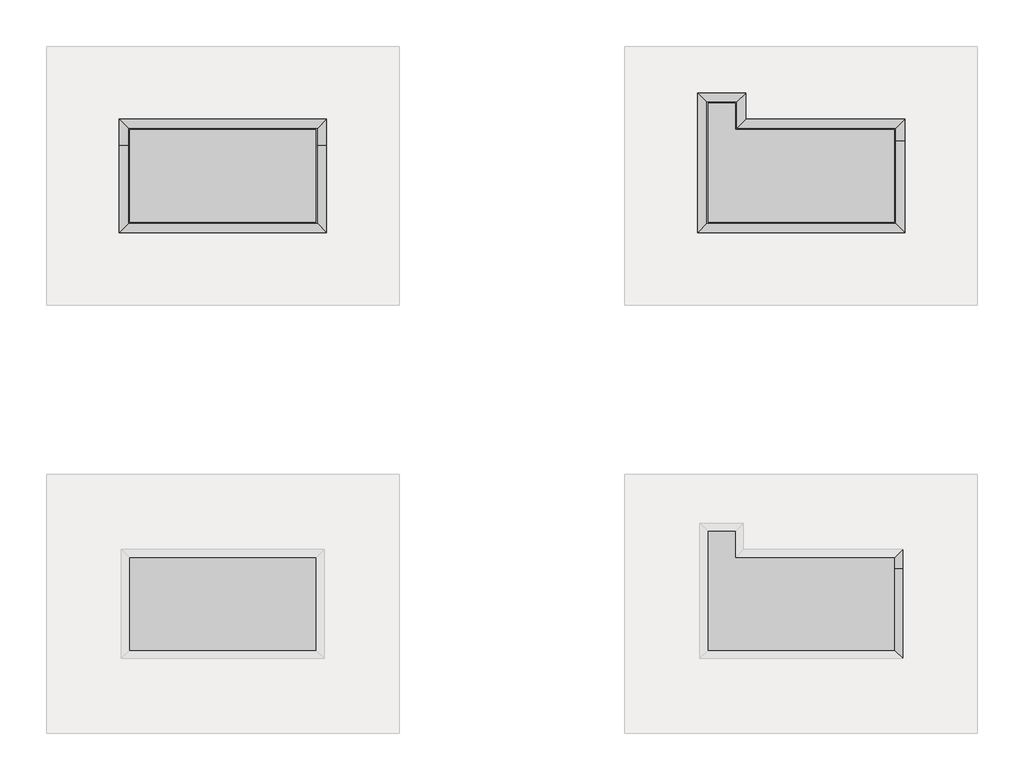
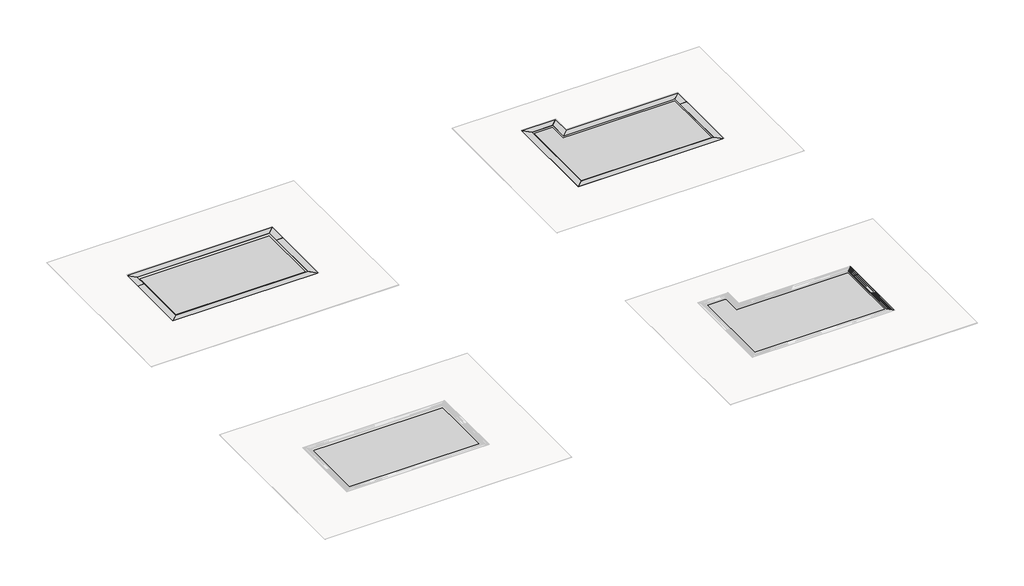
# One storey, part 5 of 5: 22 proxies.
"""IFC4 building model written with IfcOpenShell, lengths in millimetres."""

from ifc_helpers import new_model, si_unit, origin, place, context, project, spatial, faceted_brep, transform, mapped, element, save
from components import agua_piscina_1_agua_piscina_5_0a4dd42f, agua_piscina_4_agua_piscina_6_01312ebb, agua_piscina_5_agua_piscina_5_b9f0a899, agua_piscina_6_agua_piscina_6_d0c34d84

model = new_model("IFC4")

# Units and contexts
model_context = context("Model", 3, world=origin())
ifc_project = project(units=[si_unit("LENGTHUNIT", "METRE", prefix="MILLI")], contexts=[model_context])

# Site, building, storey
site = spatial("IfcSite", under=ifc_project)
building = spatial("IfcBuilding", under=site)
storey = spatial("IfcBuildingStorey", under=building, Name="EXAGRES_MILAN Series_Pool_Examples", Elevation=0.0)

# Proxies
placement = place(None, origin())
element("IfcBuildingElementProxy", 1, Name="Wall Sweeps", at=placement, inside=storey, context=model_context, shape_type="Brep", body=[
    faceted_brep([(-13895.3292468, 9079.1443058, -200.0), (-13695.3292468, 8879.1443058, -200.0), (-13495.3292468, 8679.1443058, -200.0), (-13495.3292468, 8679.1443058, 0.0), (-13895.3292468, 9079.1443058, 0.0), (-5045.3292468, 9079.1443058, -200.0), (-5045.3292468, 9079.1443058, 0.0), (-5445.3292468, 8679.1443058, 0.0), (-5445.3292468, 8679.1443058, -200.0), (-5245.3292468, 8879.1443058, -200.0)], [[[0, 1, 2, 3, 4]], [[5, 6, 7, 8, 9]], [[3, 2, 8, 7]], [[2, 1, 0, 5, 9, 8]], [[4, 3, 7, 6]], [[0, 4, 6, 5]]]),
])
element("IfcBuildingElementProxy", 2, Name="Wall Sweeps", at=placement, inside=storey, context=model_context, shape_type="Brep", body=[
    faceted_brep([(-5045.3292468, 9079.1443058, -200.0), (-5245.3292468, 8879.1443058, -200.0), (-5445.3292468, 8679.1443058, -200.0), (-5445.3292468, 8679.1443058, 0.0), (-5045.3292468, 9079.1443058, 0.0), (-5045.3292468, 7954.1443058, -200.0), (-5045.3292468, 7954.1443058, 0.0), (-5445.3292468, 7954.1443058, 0.0), (-5445.3292468, 7954.1443058, -200.0), (-5245.3292468, 7954.1443058, -200.0)], [[[0, 1, 2, 3, 4]], [[5, 6, 7, 8, 9]], [[3, 2, 8, 7]], [[2, 1, 0, 5, 9, 8]], [[4, 3, 7, 6]], [[0, 4, 6, 5]]]),
])
element("IfcBuildingElementProxy", 3, Name="Wall Sweeps", at=placement, inside=storey, context=model_context, shape_type="Brep", body=[
    faceted_brep([(-5045.3292468, 4229.1443058, -200.0), (-5245.3292468, 4429.1443058, -200.0), (-5445.3292468, 4629.1443058, -200.0), (-5445.3292468, 4629.1443058, 0.0), (-5045.3292468, 4229.1443058, 0.0), (-13895.3292468, 4229.1443058, -200.0), (-13895.3292468, 4229.1443058, 0.0), (-13495.3292468, 4629.1443058, 0.0), (-13495.3292468, 4629.1443058, -200.0), (-13695.3292468, 4429.1443058, -200.0)], [[[0, 1, 2, 3, 4]], [[5, 6, 7, 8, 9]], [[3, 2, 8, 7]], [[2, 1, 0, 5, 9, 8]], [[4, 3, 7, 6]], [[0, 4, 6, 5]]]),
])
element("IfcBuildingElementProxy", 4, Name="Wall Sweeps", at=placement, inside=storey, context=model_context, shape_type="Brep", body=[
    faceted_brep([(-13895.3292468, 4229.1443058, -200.0), (-13695.3292468, 4429.1443058, -200.0), (-13495.3292468, 4629.1443058, -200.0), (-13495.3292468, 4629.1443058, 0.0), (-13895.3292468, 4229.1443058, 0.0), (-13895.3292468, 7954.1443058, -200.0), (-13895.3292468, 7954.1443058, 0.0), (-13495.3292468, 7954.1443058, 0.0), (-13495.3292468, 7954.1443058, -200.0), (-13695.3292468, 7954.1443058, -200.0)], [[[0, 1, 2, 3, 4]], [[5, 6, 7, 8, 9]], [[3, 2, 8, 7]], [[2, 1, 0, 5, 9, 8]], [[4, 3, 7, 6]], [[0, 4, 6, 5]]]),
])
element("IfcBuildingElementProxy", 5, Name="Wall Sweeps", at=placement, inside=storey, context=model_context, shape_type="Brep", body=[
    faceted_brep([(12854.6707532, 9079.1443058, -200.0), (12654.6707532, 8879.1443058, -200.0), (12454.6707532, 8679.1443058, -200.0), (12454.6707532, 8679.1443058, 0.0), (12854.6707532, 9079.1443058, 0.0), (19654.6707532, 9079.1443058, -200.0), (19654.6707532, 9079.1443058, 0.0), (19254.6707532, 8679.1443058, 0.0), (19254.6707532, 8679.1443058, -200.0), (19454.6707532, 8879.1443058, -200.0)], [[[0, 1, 2, 3, 4]], [[5, 6, 7, 8, 9]], [[3, 2, 8, 7]], [[2, 1, 0, 5, 9, 8]], [[4, 3, 7, 6]], [[0, 4, 6, 5]]]),
])
element("IfcBuildingElementProxy", 6, Name="Wall Sweeps", at=placement, inside=storey, context=model_context, shape_type="Brep", body=[
    faceted_brep([(19654.6707532, 9079.1443058, -200.0), (19454.6707532, 8879.1443058, -200.0), (19254.6707532, 8679.1443058, -200.0), (19254.6707532, 8679.1443058, 0.0), (19654.6707532, 9079.1443058, 0.0), (19654.6707532, 8146.6443058, -200.0), (19654.6707532, 8146.6443058, 0.0), (19254.6707532, 8146.6443058, 0.0), (19254.6707532, 8146.6443058, -200.0), (19454.6707532, 8146.6443058, -200.0)], [[[0, 1, 2, 3, 4]], [[5, 6, 7, 8, 9]], [[3, 2, 8, 7]], [[2, 1, 0, 5, 9, 8]], [[4, 3, 7, 6]], [[0, 4, 6, 5]]]),
])
element("IfcBuildingElementProxy", 7, Name="Wall Sweeps", at=placement, inside=storey, context=model_context, shape_type="Brep", body=[
    faceted_brep([(19654.6707532, 4229.1443058, -200.0), (19254.6707532, 4629.1443058, -200.0), (19254.6707532, 4629.1443058, 0.0), (19654.6707532, 4229.1443058, 0.0), (10804.6707532, 4229.1443058, -200.0), (10804.6707532, 4229.1443058, 0.0), (11204.6707532, 4629.1443058, 0.0), (11204.6707532, 4629.1443058, -200.0), (11004.6707532, 4429.1443058, -200.0)], [[[0, 1, 2, 3]], [[4, 5, 6, 7, 8]], [[2, 1, 7, 6]], [[1, 0, 4, 8, 7]], [[3, 2, 6, 5]], [[0, 3, 5, 4]]]),
])
element("IfcBuildingElementProxy", 8, Name="Wall Sweeps", at=placement, inside=storey, context=model_context, shape_type="Brep", body=[
    faceted_brep([(10804.6707532, 4229.1443058, -200.0), (11004.6707532, 4429.1443058, -200.0), (11204.6707532, 4629.1443058, -200.0), (11204.6707532, 4629.1443058, 0.0), (10804.6707532, 4229.1443058, 0.0), (10804.6707532, 10199.1443058, -200.0), (10804.6707532, 10199.1443058, 0.0), (11204.6707532, 9799.1443058, 0.0), (11204.6707532, 9799.1443058, -200.0), (11004.6707532, 9999.1443058, -200.0)], [[[0, 1, 2, 3, 4]], [[5, 6, 7, 8, 9]], [[3, 2, 8, 7]], [[2, 1, 0, 5, 9, 8]], [[4, 3, 7, 6]], [[0, 4, 6, 5]]]),
])
element("IfcBuildingElementProxy", 9, Name="Wall Sweeps", at=placement, inside=storey, context=model_context, shape_type="Brep", body=[
    faceted_brep([(12854.6707532, 9079.1443058, -200.0), (12854.6707532, 9079.1443058, 0.0), (12454.6707532, 8679.1443058, 0.0), (12454.6707532, 8679.1443058, -200.0), (12654.6707532, 8879.1443058, -200.0), (12854.6707532, 10199.1443058, -200.0), (12654.6707532, 9999.1443058, -200.0), (12454.6707532, 9799.1443058, -200.0), (12454.6707532, 9799.1443058, 0.0), (12854.6707532, 10199.1443058, 0.0)], [[[0, 1, 2, 3, 4]], [[5, 6, 7, 8, 9]], [[0, 4, 3, 7, 6, 5]], [[3, 2, 8, 7]], [[1, 0, 5, 9]], [[2, 1, 9, 8]]]),
])
element("IfcBuildingElementProxy", 10, Name="Wall Sweeps", at=placement, inside=storey, context=model_context, shape_type="Brep", body=[
    faceted_brep([(10804.6707532, 10199.1443058, -200.0), (11004.6707532, 9999.1443058, -200.0), (11204.6707532, 9799.1443058, -200.0), (11204.6707532, 9799.1443058, 0.0), (10804.6707532, 10199.1443058, 0.0), (12854.6707532, 10199.1443058, -200.0), (12854.6707532, 10199.1443058, 0.0), (12454.6707532, 9799.1443058, 0.0), (12454.6707532, 9799.1443058, -200.0), (12654.6707532, 9999.1443058, -200.0)], [[[0, 1, 2, 3, 4]], [[5, 6, 7, 8, 9]], [[3, 2, 8, 7]], [[2, 1, 0, 5, 9, 8]], [[4, 3, 7, 6]], [[0, 4, 6, 5]]]),
])
element("IfcBuildingElementProxy", 11, Name="Wall Sweeps", at=placement, inside=storey, context=model_context, shape_type="Brep", body=[
    faceted_brep([(-13895.3292468, 7954.1443058, -200.0), (-13695.3292468, 7954.1443058, -200.0), (-13495.3292468, 7954.1443058, -200.0), (-13495.3292468, 7954.1443058, 0.0), (-13895.3292468, 7954.1443058, 0.0), (-13895.3292468, 9079.1443058, -200.0), (-13895.3292468, 9079.1443058, 0.0), (-13495.3292468, 8679.1443058, 0.0), (-13495.3292468, 8679.1443058, -200.0), (-13695.3292468, 8879.1443058, -200.0)], [[[0, 1, 2, 3, 4]], [[5, 6, 7, 8, 9]], [[2, 1, 0, 5, 9, 8]], [[3, 2, 8, 7]], [[4, 3, 7, 6]], [[0, 4, 6, 5]]]),
])
element("IfcBuildingElementProxy", 12, Name="Wall Sweeps", at=placement, inside=storey, context=model_context, shape_type="Brep", body=[
    faceted_brep([(-5045.3292468, 7954.1443058, -200.0), (-5245.3292468, 7954.1443058, -200.0), (-5445.3292468, 7954.1443058, -200.0), (-5445.3292468, 7954.1443058, 0.0), (-5045.3292468, 7954.1443058, 0.0), (-5045.3292468, 4229.1443058, -200.0), (-5045.3292468, 4229.1443058, 0.0), (-5445.3292468, 4629.1443058, 0.0), (-5445.3292468, 4629.1443058, -200.0), (-5245.3292468, 4429.1443058, -200.0)], [[[0, 1, 2, 3, 4]], [[5, 6, 7, 8, 9]], [[2, 1, 0, 5, 9, 8]], [[3, 2, 8, 7]], [[4, 3, 7, 6]], [[0, 4, 6, 5]]]),
])
element("IfcBuildingElementProxy", 13, Name="Wall Sweeps", at=placement, inside=storey, context=model_context, shape_type="Brep", body=[
    faceted_brep([(19654.6707532, 8146.6443058, -200.0), (19454.6707532, 8146.6443058, -200.0), (19254.6707532, 8146.6443058, -200.0), (19254.6707532, 8146.6443058, 0.0), (19654.6707532, 8146.6443058, 0.0), (19654.6707532, 4229.1443058, -200.0), (19654.6707532, 4229.1443058, 0.0), (19254.6707532, 4629.1443058, 0.0), (19254.6707532, 4629.1443058, -200.0), (19254.6707532, 4654.1443058, -200.0), (19254.6707532, 4654.1443058, 0.0)], [[[0, 1, 2, 3, 4]], [[5, 6, 7, 8]], [[2, 1, 0, 5, 8, 9]], [[3, 2, 9, 8, 7, 10]], [[4, 3, 10, 7, 6]], [[0, 4, 6, 5]]]),
])
element("IfcBuildingElementProxy", 14, Name="Wall Sweeps", at=placement, inside=storey, context=model_context, shape_type="Brep", body=[
    faceted_brep([(12749.6707532, -9319.7035945, -181.26), (12654.6707532, -9414.7035945, -181.26), (12444.6707532, -9624.7035945, -181.26), (12444.6707532, -9624.7035945, 0.0), (12444.6707532, -9624.7035945, 18.74), (12749.6707532, -9319.7035945, 18.74), (19549.6707532, -9319.7035945, -181.26), (19549.6707532, -9319.7035945, 18.74), (19244.6707532, -9624.7035945, 18.74), (19244.6707532, -9624.7035945, 0.0), (19244.6707532, -9624.7035945, -181.26), (19454.6707532, -9414.7035945, -181.26)], [[[0, 1, 2, 3, 4, 5]], [[6, 7, 8, 9, 10, 11]], [[4, 3, 2, 10, 9, 8]], [[2, 1, 0, 6, 11, 10]], [[5, 4, 8, 7]], [[0, 5, 7, 6]]]),
])
element("IfcBuildingElementProxy", 15, Name="Wall Sweeps", at=placement, inside=storey, context=model_context, shape_type="Brep", body=[
    faceted_brep([(19242.6707532, -9626.7035945, 0.0), (19229.6707532, -9639.7035945, 0.0), (19229.6707532, -9639.7035945, 33.0), (19559.6707532, -9309.7035945, 33.0), (19559.6707532, -9309.7035945, 21.0), (19553.6707532, -9315.7035945, 21.0), (19553.6707532, -9315.7035945, 22.0), (19549.6707532, -9319.7035945, 22.0), (19549.6707532, -9319.7035945, 21.0), (19543.6707532, -9325.7035945, 21.0), (19543.6707532, -9325.7035945, 22.0), (19539.6707532, -9329.7035945, 22.0), (19539.6707532, -9329.7035945, 21.0), (19533.6707532, -9335.7035945, 21.0), (19533.6707532, -9335.7035945, 22.0), (19529.6707532, -9339.7035945, 22.0), (19529.6707532, -9339.7035945, 21.0), (19523.6707532, -9345.7035945, 21.0), (19523.6707532, -9345.7035945, 22.0), (19519.6707532, -9349.7035945, 22.0), (19519.6707532, -9349.7035945, 21.0), (19513.6707532, -9355.7035945, 21.0), (19513.6707532, -9355.7035945, 22.0), (19509.6707532, -9359.7035945, 22.0), (19509.6707532, -9359.7035945, 21.0), (19503.6707532, -9365.7035945, 21.0), (19503.6707532, -9365.7035945, 22.0), (19499.6707532, -9369.7035945, 22.0), (19499.6707532, -9369.7035945, 21.0), (19493.6707532, -9375.7035945, 21.0), (19493.6707532, -9375.7035945, 22.0), (19489.6707532, -9379.7035945, 22.0), (19489.6707532, -9379.7035945, 21.0), (19483.6707532, -9385.7035945, 21.0), (19483.6707532, -9385.7035945, 22.0), (19479.6707532, -9389.7035945, 22.0), (19479.6707532, -9389.7035945, 21.0), (19473.6707532, -9395.7035945, 21.0), (19473.6707532, -9395.7035945, 22.0), (19469.6707532, -9399.7035945, 22.0), (19469.6707532, -9399.7035945, 21.0), (19463.6707532, -9405.7035945, 21.0), (19463.6707532, -9405.7035945, 22.0), (19459.6707532, -9409.7035945, 22.0), (19459.6707532, -9409.7035945, 21.0), (19453.6707532, -9415.7035945, 21.0), (19453.6707532, -9415.7035945, 22.0), (19449.6707532, -9419.7035945, 22.0), (19449.6707532, -9419.7035945, 21.0), (19443.6707532, -9425.7035945, 21.0), (19443.6707532, -9425.7035945, 22.0), (19439.6707532, -9429.7035945, 22.0), (19439.6707532, -9429.7035945, 21.0), (19433.6707532, -9435.7035945, 21.0), (19433.6707532, -9435.7035945, 22.0), (19429.6707532, -9439.7035945, 22.0), (19429.6707532, -9439.7035945, 21.0), (19423.6707532, -9445.7035945, 21.0), (19423.6707532, -9445.7035945, 22.0), (19419.6707532, -9449.7035945, 22.0), (19419.6707532, -9449.7035945, 21.0), (19413.6707532, -9455.7035945, 21.0), (19413.6707532, -9455.7035945, 22.0), (19409.6707532, -9459.7035945, 22.0), (19409.6707532, -9459.7035945, 21.0), (19403.6707532, -9465.7035945, 21.0), (19403.6707532, -9465.7035945, 22.0), (19399.6707532, -9469.7035945, 22.0), (19399.6707532, -9469.7035945, 21.0), (19393.6707532, -9475.7035945, 21.0), (19393.6707532, -9475.7035945, 22.0), (19389.6707532, -9479.7035945, 22.0), (19389.6707532, -9479.7035945, 21.0), (19383.6707532, -9485.7035945, 21.0), (19383.6707532, -9485.7035945, 22.0), (19379.6707532, -9489.7035945, 22.0), (19379.6707532, -9489.7035945, 21.0), (19373.6707532, -9495.7035945, 21.0), (19373.6707532, -9495.7035945, 22.0), (19369.6707532, -9499.7035945, 22.0), (19369.6707532, -9499.7035945, 21.0), (19363.6707532, -9505.7035945, 21.0), (19363.6707532, -9505.7035945, 22.0), (19359.6707532, -9509.7035945, 22.0), (19359.6707532, -9509.7035945, 21.0), (19353.6707532, -9515.7035945, 21.0), (19353.6707532, -9515.7035945, 22.0), (19349.6707532, -9519.7035945, 22.0), (19349.6707532, -9519.7035945, 21.0), (19343.6707532, -9525.7035945, 21.0), (19343.6707532, -9525.7035945, 22.0), (19339.6707532, -9529.7035945, 22.0), (19339.6707532, -9529.7035945, 21.0), (19333.6707532, -9535.7035945, 21.0), (19333.6707532, -9535.7035945, 22.0), (19329.6707532, -9539.7035945, 22.0), (19329.6707532, -9539.7035945, 21.0), (19323.6707532, -9545.7035945, 21.0), (19323.6707532, -9545.7035945, 22.0), (19319.6707532, -9549.7035945, 22.0), (19319.6707532, -9549.7035945, 21.0), (19313.6707532, -9555.7035945, 21.0), (19313.6707532, -9555.7035945, 22.0), (19309.6707532, -9559.7035945, 22.0), (19309.6707532, -9559.7035945, 21.0), (19303.6707532, -9565.7035945, 21.0), (19303.6707532, -9565.7035945, 22.0), (19299.6707532, -9569.7035945, 22.0), (19299.6707532, -9569.7035945, 21.0), (19293.6707532, -9575.7035945, 21.0), (19293.6707532, -9575.7035945, 22.0), (19289.6707532, -9579.7035945, 22.0), (19289.6707532, -9579.7035945, 21.0), (19283.6707532, -9585.7035945, 21.0), (19283.6707532, -9585.7035945, 22.0), (19279.6707532, -9589.7035945, 22.0), (19279.6707532, -9589.7035945, 21.0), (19273.6707532, -9595.7035945, 21.0), (19273.6707532, -9595.7035945, 22.0), (19269.6707532, -9599.7035945, 22.0), (19269.6707532, -9599.7035945, 21.0), (19263.6707532, -9605.7035945, 21.0), (19263.6707532, -9605.7035945, 22.0), (19259.6707532, -9609.7035945, 22.0), (19259.6707532, -9609.7035945, 21.0), (19253.6707532, -9615.7035945, 21.0), (19253.6707532, -9615.7035945, 22.0), (19249.6707532, -9619.7035945, 22.0), (19249.6707532, -9619.7035945, 21.0), (19242.6707532, -9626.7035945, 21.0), (19242.6707532, -9626.7035945, 14.0), (19241.6707532, -9627.7035945, 14.0), (19241.6707532, -9627.7035945, 8.0), (19242.6707532, -9626.7035945, 8.0), (19242.6707532, -10147.2035945, 0.0), (19242.6707532, -10147.2035945, 8.0), (19241.6707532, -10147.2035945, 8.0), (19241.6707532, -10147.2035945, 14.0), (19242.6707532, -10147.2035945, 14.0), (19242.6707532, -10147.2035945, 21.0), (19249.6707532, -10147.2035945, 21.0), (19249.6707532, -10147.2035945, 22.0), (19253.6707532, -10147.2035945, 22.0), (19253.6707532, -10147.2035945, 21.0), (19259.6707532, -10147.2035945, 21.0), (19259.6707532, -10147.2035945, 22.0), (19263.6707532, -10147.2035945, 22.0), (19263.6707532, -10147.2035945, 21.0), (19269.6707532, -10147.2035945, 21.0), (19269.6707532, -10147.2035945, 22.0), (19273.6707532, -10147.2035945, 22.0), (19273.6707532, -10147.2035945, 21.0), (19279.6707532, -10147.2035945, 21.0), (19279.6707532, -10147.2035945, 22.0), (19283.6707532, -10147.2035945, 22.0), (19283.6707532, -10147.2035945, 21.0), (19289.6707532, -10147.2035945, 21.0), (19289.6707532, -10147.2035945, 22.0), (19293.6707532, -10147.2035945, 22.0), (19293.6707532, -10147.2035945, 21.0), (19299.6707532, -10147.2035945, 21.0), (19299.6707532, -10147.2035945, 22.0), (19303.6707532, -10147.2035945, 22.0), (19303.6707532, -10147.2035945, 21.0), (19309.6707532, -10147.2035945, 21.0), (19309.6707532, -10147.2035945, 22.0), (19313.6707532, -10147.2035945, 22.0), (19313.6707532, -10147.2035945, 21.0), (19319.6707532, -10147.2035945, 21.0), (19319.6707532, -10147.2035945, 22.0), (19323.6707532, -10147.2035945, 22.0), (19323.6707532, -10147.2035945, 21.0), (19329.6707532, -10147.2035945, 21.0), (19329.6707532, -10147.2035945, 22.0), (19333.6707532, -10147.2035945, 22.0), (19333.6707532, -10147.2035945, 21.0), (19339.6707532, -10147.2035945, 21.0), (19339.6707532, -10147.2035945, 22.0), (19343.6707532, -10147.2035945, 22.0), (19343.6707532, -10147.2035945, 21.0), (19349.6707532, -10147.2035945, 21.0), (19349.6707532, -10147.2035945, 22.0), (19353.6707532, -10147.2035945, 22.0), (19353.6707532, -10147.2035945, 21.0), (19359.6707532, -10147.2035945, 21.0), (19359.6707532, -10147.2035945, 22.0), (19363.6707532, -10147.2035945, 22.0), (19363.6707532, -10147.2035945, 21.0), (19369.6707532, -10147.2035945, 21.0), (19369.6707532, -10147.2035945, 22.0), (19373.6707532, -10147.2035945, 22.0), (19373.6707532, -10147.2035945, 21.0), (19379.6707532, -10147.2035945, 21.0), (19379.6707532, -10147.2035945, 22.0), (19383.6707532, -10147.2035945, 22.0), (19383.6707532, -10147.2035945, 21.0), (19389.6707532, -10147.2035945, 21.0), (19389.6707532, -10147.2035945, 22.0), (19393.6707532, -10147.2035945, 22.0), (19393.6707532, -10147.2035945, 21.0), (19399.6707532, -10147.2035945, 21.0), (19399.6707532, -10147.2035945, 22.0), (19403.6707532, -10147.2035945, 22.0), (19403.6707532, -10147.2035945, 21.0), (19409.6707532, -10147.2035945, 21.0), (19409.6707532, -10147.2035945, 22.0), (19413.6707532, -10147.2035945, 22.0), (19413.6707532, -10147.2035945, 21.0), (19419.6707532, -10147.2035945, 21.0), (19419.6707532, -10147.2035945, 22.0), (19423.6707532, -10147.2035945, 22.0), (19423.6707532, -10147.2035945, 21.0), (19429.6707532, -10147.2035945, 21.0), (19429.6707532, -10147.2035945, 22.0), (19433.6707532, -10147.2035945, 22.0), (19433.6707532, -10147.2035945, 21.0), (19439.6707532, -10147.2035945, 21.0), (19439.6707532, -10147.2035945, 22.0), (19443.6707532, -10147.2035945, 22.0), (19443.6707532, -10147.2035945, 21.0), (19449.6707532, -10147.2035945, 21.0), (19449.6707532, -10147.2035945, 22.0), (19453.6707532, -10147.2035945, 22.0), (19453.6707532, -10147.2035945, 21.0), (19459.6707532, -10147.2035945, 21.0), (19459.6707532, -10147.2035945, 22.0), (19463.6707532, -10147.2035945, 22.0), (19463.6707532, -10147.2035945, 21.0), (19469.6707532, -10147.2035945, 21.0), (19469.6707532, -10147.2035945, 22.0), (19473.6707532, -10147.2035945, 22.0), (19473.6707532, -10147.2035945, 21.0), (19479.6707532, -10147.2035945, 21.0), (19479.6707532, -10147.2035945, 22.0), (19483.6707532, -10147.2035945, 22.0), (19483.6707532, -10147.2035945, 21.0), (19489.6707532, -10147.2035945, 21.0), (19489.6707532, -10147.2035945, 22.0), (19493.6707532, -10147.2035945, 22.0), (19493.6707532, -10147.2035945, 21.0), (19499.6707532, -10147.2035945, 21.0), (19499.6707532, -10147.2035945, 22.0), (19503.6707532, -10147.2035945, 22.0), (19503.6707532, -10147.2035945, 21.0), (19509.6707532, -10147.2035945, 21.0), (19509.6707532, -10147.2035945, 22.0), (19513.6707532, -10147.2035945, 22.0), (19513.6707532, -10147.2035945, 21.0), (19519.6707532, -10147.2035945, 21.0), (19519.6707532, -10147.2035945, 22.0), (19523.6707532, -10147.2035945, 22.0), (19523.6707532, -10147.2035945, 21.0), (19529.6707532, -10147.2035945, 21.0), (19529.6707532, -10147.2035945, 22.0), (19533.6707532, -10147.2035945, 22.0), (19533.6707532, -10147.2035945, 21.0), (19539.6707532, -10147.2035945, 21.0), (19539.6707532, -10147.2035945, 22.0), (19543.6707532, -10147.2035945, 22.0), (19543.6707532, -10147.2035945, 21.0), (19549.6707532, -10147.2035945, 21.0), (19549.6707532, -10147.2035945, 22.0), (19553.6707532, -10147.2035945, 22.0), (19553.6707532, -10147.2035945, 21.0), (19559.6707532, -10147.2035945, 21.0), (19559.6707532, -10147.2035945, 33.0), (19229.6707532, -10147.2035945, 33.0), (19229.6707532, -10147.2035945, 0.0)], [[[0, 1, 2, 3, 4, 5, 6, 7, 8, 9, 10, 11, 12, 13, 14, 15, 16, 17, 18, 19, 20, 21, 22, 23, 24, 25, 26, 27, 28, 29, 30, 31, 32, 33, 34, 35, 36, 37, 38, 39, 40, 41, 42, 43, 44, 45, 46, 47, 48, 49, 50, 51, 52, 53, 54, 55, 56, 57, 58, 59, 60, 61, 62, 63, 64, 65, 66, 67, 68, 69, 70, 71, 72, 73, 74, 75, 76, 77, 78, 79, 80, 81, 82, 83, 84, 85, 86, 87, 88, 89, 90, 91, 92, 93, 94, 95, 96, 97, 98, 99, 100, 101, 102, 103, 104, 105, 106, 107, 108, 109, 110, 111, 112, 113, 114, 115, 116, 117, 118, 119, 120, 121, 122, 123, 124, 125, 126, 127, 128, 129, 130, 131, 132, 133]], [[134, 135, 136, 137, 138, 139, 140, 141, 142, 143, 144, 145, 146, 147, 148, 149, 150, 151, 152, 153, 154, 155, 156, 157, 158, 159, 160, 161, 162, 163, 164, 165, 166, 167, 168, 169, 170, 171, 172, 173, 174, 175, 176, 177, 178, 179, 180, 181, 182, 183, 184, 185, 186, 187, 188, 189, 190, 191, 192, 193, 194, 195, 196, 197, 198, 199, 200, 201, 202, 203, 204, 205, 206, 207, 208, 209, 210, 211, 212, 213, 214, 215, 216, 217, 218, 219, 220, 221, 222, 223, 224, 225, 226, 227, 228, 229, 230, 231, 232, 233, 234, 235, 236, 237, 238, 239, 240, 241, 242, 243, 244, 245, 246, 247, 248, 249, 250, 251, 252, 253, 254, 255, 256, 257, 258, 259, 260, 261, 262, 263, 264, 265, 266, 267]], [[1, 0, 134, 267]], [[2, 1, 267, 266]], [[3, 2, 266, 265]], [[4, 3, 265, 264]], [[5, 4, 264, 263]], [[6, 5, 263, 262]], [[7, 6, 262, 261]], [[8, 7, 261, 260]], [[9, 8, 260, 259]], [[10, 9, 259, 258]], [[11, 10, 258, 257]], [[12, 11, 257, 256]], [[13, 12, 256, 255]], [[14, 13, 255, 254]], [[15, 14, 254, 253]], [[16, 15, 253, 252]], [[17, 16, 252, 251]], [[18, 17, 251, 250]], [[19, 18, 250, 249]], [[20, 19, 249, 248]], [[21, 20, 248, 247]], [[22, 21, 247, 246]], [[23, 22, 246, 245]], [[24, 23, 245, 244]], [[25, 24, 244, 243]], [[26, 25, 243, 242]], [[27, 26, 242, 241]], [[28, 27, 241, 240]], [[29, 28, 240, 239]], [[30, 29, 239, 238]], [[31, 30, 238, 237]], [[32, 31, 237, 236]], [[33, 32, 236, 235]], [[34, 33, 235, 234]], [[35, 34, 234, 233]], [[36, 35, 233, 232]], [[37, 36, 232, 231]], [[38, 37, 231, 230]], [[39, 38, 230, 229]], [[40, 39, 229, 228]], [[41, 40, 228, 227]], [[42, 41, 227, 226]], [[43, 42, 226, 225]], [[44, 43, 225, 224]], [[45, 44, 224, 223]], [[46, 45, 223, 222]], [[47, 46, 222, 221]], [[48, 47, 221, 220]], [[49, 48, 220, 219]], [[50, 49, 219, 218]], [[51, 50, 218, 217]], [[52, 51, 217, 216]], [[53, 52, 216, 215]], [[54, 53, 215, 214]], [[55, 54, 214, 213]], [[56, 55, 213, 212]], [[57, 56, 212, 211]], [[58, 57, 211, 210]], [[59, 58, 210, 209]], [[60, 59, 209, 208]], [[61, 60, 208, 207]], [[62, 61, 207, 206]], [[63, 62, 206, 205]], [[64, 63, 205, 204]], [[65, 64, 204, 203]], [[66, 65, 203, 202]], [[67, 66, 202, 201]], [[68, 67, 201, 200]], [[69, 68, 200, 199]], [[70, 69, 199, 198]], [[71, 70, 198, 197]], [[72, 71, 197, 196]], [[73, 72, 196, 195]], [[74, 73, 195, 194]], [[75, 74, 194, 193]], [[76, 75, 193, 192]], [[77, 76, 192, 191]], [[78, 77, 191, 190]], [[79, 78, 190, 189]], [[80, 79, 189, 188]], [[81, 80, 188, 187]], [[82, 81, 187, 186]], [[83, 82, 186, 185]], [[84, 83, 185, 184]], [[85, 84, 184, 183]], [[86, 85, 183, 182]], [[87, 86, 182, 181]], [[88, 87, 181, 180]], [[89, 88, 180, 179]], [[90, 89, 179, 178]], [[91, 90, 178, 177]], [[92, 91, 177, 176]], [[93, 92, 176, 175]], [[94, 93, 175, 174]], [[95, 94, 174, 173]], [[96, 95, 173, 172]], [[97, 96, 172, 171]], [[98, 97, 171, 170]], [[99, 98, 170, 169]], [[100, 99, 169, 168]], [[101, 100, 168, 167]], [[102, 101, 167, 166]], [[103, 102, 166, 165]], [[104, 103, 165, 164]], [[105, 104, 164, 163]], [[106, 105, 163, 162]], [[107, 106, 162, 161]], [[108, 107, 161, 160]], [[109, 108, 160, 159]], [[110, 109, 159, 158]], [[111, 110, 158, 157]], [[112, 111, 157, 156]], [[113, 112, 156, 155]], [[114, 113, 155, 154]], [[115, 114, 154, 153]], [[116, 115, 153, 152]], [[117, 116, 152, 151]], [[118, 117, 151, 150]], [[119, 118, 150, 149]], [[120, 119, 149, 148]], [[121, 120, 148, 147]], [[122, 121, 147, 146]], [[123, 122, 146, 145]], [[124, 123, 145, 144]], [[125, 124, 144, 143]], [[126, 125, 143, 142]], [[127, 126, 142, 141]], [[128, 127, 141, 140]], [[129, 128, 140, 139]], [[130, 129, 139, 138]], [[131, 130, 138, 137]], [[132, 131, 137, 136]], [[133, 132, 136, 135]], [[0, 133, 135, 134]]]),
])
element("IfcBuildingElementProxy", 16, Name="Wall Sweeps", at=placement, inside=storey, context=model_context, shape_type="Brep", body=[
    faceted_brep([(19549.6707532, -9319.7035945, -181.26), (19454.6707532, -9414.7035945, -181.26), (19244.6707532, -9624.7035945, -181.26), (19244.6707532, -9624.7035945, 0.0), (19244.6707532, -9624.7035945, 18.74), (19549.6707532, -9319.7035945, 18.74), (19549.6707532, -10147.2035945, -181.26), (19549.6707532, -10147.2035945, 18.74), (19244.6707532, -10147.2035945, 18.74), (19244.6707532, -10147.2035945, 0.0), (19244.6707532, -10147.2035945, -181.26), (19454.6707532, -10147.2035945, -181.26)], [[[0, 1, 2, 3, 4, 5]], [[6, 7, 8, 9, 10, 11]], [[4, 3, 2, 10, 9, 8]], [[2, 1, 0, 6, 11, 10]], [[5, 4, 8, 7]], [[0, 5, 7, 6]]]),
])
element("IfcBuildingElementProxy", 17, Name="Wall Sweeps", at=placement, inside=storey, context=model_context, shape_type="Brep", body=[
    faceted_brep([(19242.6707532, -10147.2035945, 0.0), (19229.6707532, -10147.2035945, 0.0), (19229.6707532, -10147.2035945, 33.0), (19559.6707532, -10147.2035945, 33.0), (19559.6707532, -10147.2035945, 21.0), (19553.6707532, -10147.2035945, 21.0), (19553.6707532, -10147.2035945, 22.0), (19549.6707532, -10147.2035945, 22.0), (19549.6707532, -10147.2035945, 21.0), (19543.6707532, -10147.2035945, 21.0), (19543.6707532, -10147.2035945, 22.0), (19539.6707532, -10147.2035945, 22.0), (19539.6707532, -10147.2035945, 21.0), (19533.6707532, -10147.2035945, 21.0), (19533.6707532, -10147.2035945, 22.0), (19529.6707532, -10147.2035945, 22.0), (19529.6707532, -10147.2035945, 21.0), (19523.6707532, -10147.2035945, 21.0), (19523.6707532, -10147.2035945, 22.0), (19519.6707532, -10147.2035945, 22.0), (19519.6707532, -10147.2035945, 21.0), (19513.6707532, -10147.2035945, 21.0), (19513.6707532, -10147.2035945, 22.0), (19509.6707532, -10147.2035945, 22.0), (19509.6707532, -10147.2035945, 21.0), (19503.6707532, -10147.2035945, 21.0), (19503.6707532, -10147.2035945, 22.0), (19499.6707532, -10147.2035945, 22.0), (19499.6707532, -10147.2035945, 21.0), (19493.6707532, -10147.2035945, 21.0), (19493.6707532, -10147.2035945, 22.0), (19489.6707532, -10147.2035945, 22.0), (19489.6707532, -10147.2035945, 21.0), (19483.6707532, -10147.2035945, 21.0), (19483.6707532, -10147.2035945, 22.0), (19479.6707532, -10147.2035945, 22.0), (19479.6707532, -10147.2035945, 21.0), (19473.6707532, -10147.2035945, 21.0), (19473.6707532, -10147.2035945, 22.0), (19469.6707532, -10147.2035945, 22.0), (19469.6707532, -10147.2035945, 21.0), (19463.6707532, -10147.2035945, 21.0), (19463.6707532, -10147.2035945, 22.0), (19459.6707532, -10147.2035945, 22.0), (19459.6707532, -10147.2035945, 21.0), (19453.6707532, -10147.2035945, 21.0), (19453.6707532, -10147.2035945, 22.0), (19449.6707532, -10147.2035945, 22.0), (19449.6707532, -10147.2035945, 21.0), (19443.6707532, -10147.2035945, 21.0), (19443.6707532, -10147.2035945, 22.0), (19439.6707532, -10147.2035945, 22.0), (19439.6707532, -10147.2035945, 21.0), (19433.6707532, -10147.2035945, 21.0), (19433.6707532, -10147.2035945, 22.0), (19429.6707532, -10147.2035945, 22.0), (19429.6707532, -10147.2035945, 21.0), (19423.6707532, -10147.2035945, 21.0), (19423.6707532, -10147.2035945, 22.0), (19419.6707532, -10147.2035945, 22.0), (19419.6707532, -10147.2035945, 21.0), (19413.6707532, -10147.2035945, 21.0), (19413.6707532, -10147.2035945, 22.0), (19409.6707532, -10147.2035945, 22.0), (19409.6707532, -10147.2035945, 21.0), (19403.6707532, -10147.2035945, 21.0), (19403.6707532, -10147.2035945, 22.0), (19399.6707532, -10147.2035945, 22.0), (19399.6707532, -10147.2035945, 21.0), (19393.6707532, -10147.2035945, 21.0), (19393.6707532, -10147.2035945, 22.0), (19389.6707532, -10147.2035945, 22.0), (19389.6707532, -10147.2035945, 21.0), (19383.6707532, -10147.2035945, 21.0), (19383.6707532, -10147.2035945, 22.0), (19379.6707532, -10147.2035945, 22.0), (19379.6707532, -10147.2035945, 21.0), (19373.6707532, -10147.2035945, 21.0), (19373.6707532, -10147.2035945, 22.0), (19369.6707532, -10147.2035945, 22.0), (19369.6707532, -10147.2035945, 21.0), (19363.6707532, -10147.2035945, 21.0), (19363.6707532, -10147.2035945, 22.0), (19359.6707532, -10147.2035945, 22.0), (19359.6707532, -10147.2035945, 21.0), (19353.6707532, -10147.2035945, 21.0), (19353.6707532, -10147.2035945, 22.0), (19349.6707532, -10147.2035945, 22.0), (19349.6707532, -10147.2035945, 21.0), (19343.6707532, -10147.2035945, 21.0), (19343.6707532, -10147.2035945, 22.0), (19339.6707532, -10147.2035945, 22.0), (19339.6707532, -10147.2035945, 21.0), (19333.6707532, -10147.2035945, 21.0), (19333.6707532, -10147.2035945, 22.0), (19329.6707532, -10147.2035945, 22.0), (19329.6707532, -10147.2035945, 21.0), (19323.6707532, -10147.2035945, 21.0), (19323.6707532, -10147.2035945, 22.0), (19319.6707532, -10147.2035945, 22.0), (19319.6707532, -10147.2035945, 21.0), (19313.6707532, -10147.2035945, 21.0), (19313.6707532, -10147.2035945, 22.0), (19309.6707532, -10147.2035945, 22.0), (19309.6707532, -10147.2035945, 21.0), (19303.6707532, -10147.2035945, 21.0), (19303.6707532, -10147.2035945, 22.0), (19299.6707532, -10147.2035945, 22.0), (19299.6707532, -10147.2035945, 21.0), (19293.6707532, -10147.2035945, 21.0), (19293.6707532, -10147.2035945, 22.0), (19289.6707532, -10147.2035945, 22.0), (19289.6707532, -10147.2035945, 21.0), (19283.6707532, -10147.2035945, 21.0), (19283.6707532, -10147.2035945, 22.0), (19279.6707532, -10147.2035945, 22.0), (19279.6707532, -10147.2035945, 21.0), (19273.6707532, -10147.2035945, 21.0), (19273.6707532, -10147.2035945, 22.0), (19269.6707532, -10147.2035945, 22.0), (19269.6707532, -10147.2035945, 21.0), (19263.6707532, -10147.2035945, 21.0), (19263.6707532, -10147.2035945, 22.0), (19259.6707532, -10147.2035945, 22.0), (19259.6707532, -10147.2035945, 21.0), (19253.6707532, -10147.2035945, 21.0), (19253.6707532, -10147.2035945, 22.0), (19249.6707532, -10147.2035945, 22.0), (19249.6707532, -10147.2035945, 21.0), (19242.6707532, -10147.2035945, 21.0), (19242.6707532, -10147.2035945, 14.0), (19241.6707532, -10147.2035945, 14.0), (19241.6707532, -10147.2035945, 8.0), (19242.6707532, -10147.2035945, 8.0), (19242.6707532, -13652.7035945, 0.0), (19242.6707532, -13652.7035945, 8.0), (19241.6707532, -13651.7035945, 8.0), (19241.6707532, -13651.7035945, 14.0), (19242.6707532, -13652.7035945, 14.0), (19242.6707532, -13652.7035945, 21.0), (19249.6707532, -13659.7035945, 21.0), (19249.6707532, -13659.7035945, 22.0), (19253.6707532, -13663.7035945, 22.0), (19253.6707532, -13663.7035945, 21.0), (19259.6707532, -13669.7035945, 21.0), (19259.6707532, -13669.7035945, 22.0), (19263.6707532, -13673.7035945, 22.0), (19263.6707532, -13673.7035945, 21.0), (19269.6707532, -13679.7035945, 21.0), (19269.6707532, -13679.7035945, 22.0), (19273.6707532, -13683.7035945, 22.0), (19273.6707532, -13683.7035945, 21.0), (19279.6707532, -13689.7035945, 21.0), (19279.6707532, -13689.7035945, 22.0), (19283.6707532, -13693.7035945, 22.0), (19283.6707532, -13693.7035945, 21.0), (19289.6707532, -13699.7035945, 21.0), (19289.6707532, -13699.7035945, 22.0), (19293.6707532, -13703.7035945, 22.0), (19293.6707532, -13703.7035945, 21.0), (19299.6707532, -13709.7035945, 21.0), (19299.6707532, -13709.7035945, 22.0), (19303.6707532, -13713.7035945, 22.0), (19303.6707532, -13713.7035945, 21.0), (19309.6707532, -13719.7035945, 21.0), (19309.6707532, -13719.7035945, 22.0), (19313.6707532, -13723.7035945, 22.0), (19313.6707532, -13723.7035945, 21.0), (19319.6707532, -13729.7035945, 21.0), (19319.6707532, -13729.7035945, 22.0), (19323.6707532, -13733.7035945, 22.0), (19323.6707532, -13733.7035945, 21.0), (19329.6707532, -13739.7035945, 21.0), (19329.6707532, -13739.7035945, 22.0), (19333.6707532, -13743.7035945, 22.0), (19333.6707532, -13743.7035945, 21.0), (19339.6707532, -13749.7035945, 21.0), (19339.6707532, -13749.7035945, 22.0), (19343.6707532, -13753.7035945, 22.0), (19343.6707532, -13753.7035945, 21.0), (19349.6707532, -13759.7035945, 21.0), (19349.6707532, -13759.7035945, 22.0), (19353.6707532, -13763.7035945, 22.0), (19353.6707532, -13763.7035945, 21.0), (19359.6707532, -13769.7035945, 21.0), (19359.6707532, -13769.7035945, 22.0), (19363.6707532, -13773.7035945, 22.0), (19363.6707532, -13773.7035945, 21.0), (19369.6707532, -13779.7035945, 21.0), (19369.6707532, -13779.7035945, 22.0), (19373.6707532, -13783.7035945, 22.0), (19373.6707532, -13783.7035945, 21.0), (19379.6707532, -13789.7035945, 21.0), (19379.6707532, -13789.7035945, 22.0), (19383.6707532, -13793.7035945, 22.0), (19383.6707532, -13793.7035945, 21.0), (19389.6707532, -13799.7035945, 21.0), (19389.6707532, -13799.7035945, 22.0), (19393.6707532, -13803.7035945, 22.0), (19393.6707532, -13803.7035945, 21.0), (19399.6707532, -13809.7035945, 21.0), (19399.6707532, -13809.7035945, 22.0), (19403.6707532, -13813.7035945, 22.0), (19403.6707532, -13813.7035945, 21.0), (19409.6707532, -13819.7035945, 21.0), (19409.6707532, -13819.7035945, 22.0), (19413.6707532, -13823.7035945, 22.0), (19413.6707532, -13823.7035945, 21.0), (19419.6707532, -13829.7035945, 21.0), (19419.6707532, -13829.7035945, 22.0), (19423.6707532, -13833.7035945, 22.0), (19423.6707532, -13833.7035945, 21.0), (19429.6707532, -13839.7035945, 21.0), (19429.6707532, -13839.7035945, 22.0), (19433.6707532, -13843.7035945, 22.0), (19433.6707532, -13843.7035945, 21.0), (19439.6707532, -13849.7035945, 21.0), (19439.6707532, -13849.7035945, 22.0), (19443.6707532, -13853.7035945, 22.0), (19443.6707532, -13853.7035945, 21.0), (19449.6707532, -13859.7035945, 21.0), (19449.6707532, -13859.7035945, 22.0), (19453.6707532, -13863.7035945, 22.0), (19453.6707532, -13863.7035945, 21.0), (19459.6707532, -13869.7035945, 21.0), (19459.6707532, -13869.7035945, 22.0), (19463.6707532, -13873.7035945, 22.0), (19463.6707532, -13873.7035945, 21.0), (19469.6707532, -13879.7035945, 21.0), (19469.6707532, -13879.7035945, 22.0), (19473.6707532, -13883.7035945, 22.0), (19473.6707532, -13883.7035945, 21.0), (19479.6707532, -13889.7035945, 21.0), (19479.6707532, -13889.7035945, 22.0), (19483.6707532, -13893.7035945, 22.0), (19483.6707532, -13893.7035945, 21.0), (19489.6707532, -13899.7035945, 21.0), (19489.6707532, -13899.7035945, 22.0), (19493.6707532, -13903.7035945, 22.0), (19493.6707532, -13903.7035945, 21.0), (19499.6707532, -13909.7035945, 21.0), (19499.6707532, -13909.7035945, 22.0), (19503.6707532, -13913.7035945, 22.0), (19503.6707532, -13913.7035945, 21.0), (19509.6707532, -13919.7035945, 21.0), (19509.6707532, -13919.7035945, 22.0), (19513.6707532, -13923.7035945, 22.0), (19513.6707532, -13923.7035945, 21.0), (19519.6707532, -13929.7035945, 21.0), (19519.6707532, -13929.7035945, 22.0), (19523.6707532, -13933.7035945, 22.0), (19523.6707532, -13933.7035945, 21.0), (19529.6707532, -13939.7035945, 21.0), (19529.6707532, -13939.7035945, 22.0), (19533.6707532, -13943.7035945, 22.0), (19533.6707532, -13943.7035945, 21.0), (19539.6707532, -13949.7035945, 21.0), (19539.6707532, -13949.7035945, 22.0), (19543.6707532, -13953.7035945, 22.0), (19543.6707532, -13953.7035945, 21.0), (19549.6707532, -13959.7035945, 21.0), (19549.6707532, -13959.7035945, 22.0), (19553.6707532, -13963.7035945, 22.0), (19553.6707532, -13963.7035945, 21.0), (19559.6707532, -13969.7035945, 21.0), (19559.6707532, -13969.7035945, 33.0), (19229.6707532, -13639.7035945, 33.0), (19229.6707532, -13639.7035945, 0.0)], [[[0, 1, 2, 3, 4, 5, 6, 7, 8, 9, 10, 11, 12, 13, 14, 15, 16, 17, 18, 19, 20, 21, 22, 23, 24, 25, 26, 27, 28, 29, 30, 31, 32, 33, 34, 35, 36, 37, 38, 39, 40, 41, 42, 43, 44, 45, 46, 47, 48, 49, 50, 51, 52, 53, 54, 55, 56, 57, 58, 59, 60, 61, 62, 63, 64, 65, 66, 67, 68, 69, 70, 71, 72, 73, 74, 75, 76, 77, 78, 79, 80, 81, 82, 83, 84, 85, 86, 87, 88, 89, 90, 91, 92, 93, 94, 95, 96, 97, 98, 99, 100, 101, 102, 103, 104, 105, 106, 107, 108, 109, 110, 111, 112, 113, 114, 115, 116, 117, 118, 119, 120, 121, 122, 123, 124, 125, 126, 127, 128, 129, 130, 131, 132, 133]], [[134, 135, 136, 137, 138, 139, 140, 141, 142, 143, 144, 145, 146, 147, 148, 149, 150, 151, 152, 153, 154, 155, 156, 157, 158, 159, 160, 161, 162, 163, 164, 165, 166, 167, 168, 169, 170, 171, 172, 173, 174, 175, 176, 177, 178, 179, 180, 181, 182, 183, 184, 185, 186, 187, 188, 189, 190, 191, 192, 193, 194, 195, 196, 197, 198, 199, 200, 201, 202, 203, 204, 205, 206, 207, 208, 209, 210, 211, 212, 213, 214, 215, 216, 217, 218, 219, 220, 221, 222, 223, 224, 225, 226, 227, 228, 229, 230, 231, 232, 233, 234, 235, 236, 237, 238, 239, 240, 241, 242, 243, 244, 245, 246, 247, 248, 249, 250, 251, 252, 253, 254, 255, 256, 257, 258, 259, 260, 261, 262, 263, 264, 265, 266, 267]], [[1, 0, 134, 267]], [[2, 1, 267, 266]], [[3, 2, 266, 265]], [[4, 3, 265, 264]], [[5, 4, 264, 263]], [[6, 5, 263, 262]], [[7, 6, 262, 261]], [[8, 7, 261, 260]], [[9, 8, 260, 259]], [[10, 9, 259, 258]], [[11, 10, 258, 257]], [[12, 11, 257, 256]], [[13, 12, 256, 255]], [[14, 13, 255, 254]], [[15, 14, 254, 253]], [[16, 15, 253, 252]], [[17, 16, 252, 251]], [[18, 17, 251, 250]], [[19, 18, 250, 249]], [[20, 19, 249, 248]], [[21, 20, 248, 247]], [[22, 21, 247, 246]], [[23, 22, 246, 245]], [[24, 23, 245, 244]], [[25, 24, 244, 243]], [[26, 25, 243, 242]], [[27, 26, 242, 241]], [[28, 27, 241, 240]], [[29, 28, 240, 239]], [[30, 29, 239, 238]], [[31, 30, 238, 237]], [[32, 31, 237, 236]], [[33, 32, 236, 235]], [[34, 33, 235, 234]], [[35, 34, 234, 233]], [[36, 35, 233, 232]], [[37, 36, 232, 231]], [[38, 37, 231, 230]], [[39, 38, 230, 229]], [[40, 39, 229, 228]], [[41, 40, 228, 227]], [[42, 41, 227, 226]], [[43, 42, 226, 225]], [[44, 43, 225, 224]], [[45, 44, 224, 223]], [[46, 45, 223, 222]], [[47, 46, 222, 221]], [[48, 47, 221, 220]], [[49, 48, 220, 219]], [[50, 49, 219, 218]], [[51, 50, 218, 217]], [[52, 51, 217, 216]], [[53, 52, 216, 215]], [[54, 53, 215, 214]], [[55, 54, 214, 213]], [[56, 55, 213, 212]], [[57, 56, 212, 211]], [[58, 57, 211, 210]], [[59, 58, 210, 209]], [[60, 59, 209, 208]], [[61, 60, 208, 207]], [[62, 61, 207, 206]], [[63, 62, 206, 205]], [[64, 63, 205, 204]], [[65, 64, 204, 203]], [[66, 65, 203, 202]], [[67, 66, 202, 201]], [[68, 67, 201, 200]], [[69, 68, 200, 199]], [[70, 69, 199, 198]], [[71, 70, 198, 197]], [[72, 71, 197, 196]], [[73, 72, 196, 195]], [[74, 73, 195, 194]], [[75, 74, 194, 193]], [[76, 75, 193, 192]], [[77, 76, 192, 191]], [[78, 77, 191, 190]], [[79, 78, 190, 189]], [[80, 79, 189, 188]], [[81, 80, 188, 187]], [[82, 81, 187, 186]], [[83, 82, 186, 185]], [[84, 83, 185, 184]], [[85, 84, 184, 183]], [[86, 85, 183, 182]], [[87, 86, 182, 181]], [[88, 87, 181, 180]], [[89, 88, 180, 179]], [[90, 89, 179, 178]], [[91, 90, 178, 177]], [[92, 91, 177, 176]], [[93, 92, 176, 175]], [[94, 93, 175, 174]], [[95, 94, 174, 173]], [[96, 95, 173, 172]], [[97, 96, 172, 171]], [[98, 97, 171, 170]], [[99, 98, 170, 169]], [[100, 99, 169, 168]], [[101, 100, 168, 167]], [[102, 101, 167, 166]], [[103, 102, 166, 165]], [[104, 103, 165, 164]], [[105, 104, 164, 163]], [[106, 105, 163, 162]], [[107, 106, 162, 161]], [[108, 107, 161, 160]], [[109, 108, 160, 159]], [[110, 109, 159, 158]], [[111, 110, 158, 157]], [[112, 111, 157, 156]], [[113, 112, 156, 155]], [[114, 113, 155, 154]], [[115, 114, 154, 153]], [[116, 115, 153, 152]], [[117, 116, 152, 151]], [[118, 117, 151, 150]], [[119, 118, 150, 149]], [[120, 119, 149, 148]], [[121, 120, 148, 147]], [[122, 121, 147, 146]], [[123, 122, 146, 145]], [[124, 123, 145, 144]], [[125, 124, 144, 143]], [[126, 125, 143, 142]], [[127, 126, 142, 141]], [[128, 127, 141, 140]], [[129, 128, 140, 139]], [[130, 129, 139, 138]], [[131, 130, 138, 137]], [[132, 131, 137, 136]], [[133, 132, 136, 135]], [[0, 133, 135, 134]]]),
])
element("IfcBuildingElementProxy", 18, Name="Wall Sweeps", at=placement, inside=storey, context=model_context, shape_type="Brep", body=[
    faceted_brep([(19549.6707532, -10147.2035945, -181.26), (19454.6707532, -10147.2035945, -181.26), (19244.6707532, -10147.2035945, -181.26), (19244.6707532, -10147.2035945, 0.0), (19244.6707532, -10147.2035945, 18.74), (19549.6707532, -10147.2035945, 18.74), (19549.6707532, -13959.7035945, -181.26), (19549.6707532, -13959.7035945, 18.74), (19244.6707532, -13654.7035945, 18.74), (19244.6707532, -13654.7035945, -181.26), (19244.6707532, -13639.7035945, -181.26)], [[[0, 1, 2, 3, 4, 5]], [[6, 7, 8, 9]], [[2, 1, 0, 6, 9, 10]], [[4, 3, 2, 10, 9, 8]], [[5, 4, 8, 7]], [[0, 5, 7, 6]]]),
])
agua_piscina_1_agua_piscina_5_shape = agua_piscina_1_agua_piscina_5_0a4dd42f(model_context)
element("IfcBuildingElementProxy", 19, Name="Agua Piscina_1 : Agua Piscina_5", ObjectType="Agua Piscina_1 : Agua Piscina_5", at=placement, inside=storey, context=model_context, shape_type="MappedRepresentation", body=[
    mapped(agua_piscina_1_agua_piscina_5_shape, transform((1256.3818813, 35978.0697727, 0.0), x_axis=(1.0, 0.0, 0.0), y_axis=(0.0, 1.0, 0.0), z_axis=(0.0, 0.0, 1.0))),
])
agua_piscina_4_agua_piscina_6_shape = agua_piscina_4_agua_piscina_6_01312ebb(model_context)
element("IfcBuildingElementProxy", 20, Name="Agua Piscina_4 : Agua Piscina_6", ObjectType="Agua Piscina_4 : Agua Piscina_6", at=placement, inside=storey, context=model_context, shape_type="MappedRepresentation", body=[
    mapped(agua_piscina_4_agua_piscina_6_shape, transform((6104.9631559, 22580.608927, 0.0), x_axis=(0.0, -1.0, 0.0), y_axis=(1.0, 0.0, 0.0), z_axis=(0.0, 0.0, 1.0))),
])
agua_piscina_5_agua_piscina_5_shape = agua_piscina_5_agua_piscina_5_b9f0a899(model_context)
element("IfcBuildingElementProxy", 21, Name="Agua Piscina_5 : Agua Piscina_5", ObjectType="Agua Piscina_5 : Agua Piscina_5", at=placement, inside=storey, context=model_context, shape_type="MappedRepresentation", body=[
    mapped(agua_piscina_5_agua_piscina_5_shape, transform((1256.3818813, 35978.0697727, 0.0), x_axis=(1.0, 0.0, 0.0), y_axis=(0.0, 1.0, 0.0), z_axis=(0.0, 0.0, 1.0))),
])
agua_piscina_6_agua_piscina_6_shape = agua_piscina_6_agua_piscina_6_d0c34d84(model_context)
element("IfcBuildingElementProxy", 22, Name="Agua Piscina_6 : Agua Piscina_6", ObjectType="Agua Piscina_6 : Agua Piscina_6", at=placement, inside=storey, context=model_context, shape_type="MappedRepresentation", body=[
    mapped(agua_piscina_6_agua_piscina_6_shape, transform((7468.5655014, 2897.3963587, 0.0), x_axis=(0.0, -1.0, 0.0), y_axis=(1.0, 0.0, 0.0), z_axis=(0.0, 0.0, 1.0))),
])

save(model, "model.ifc")
